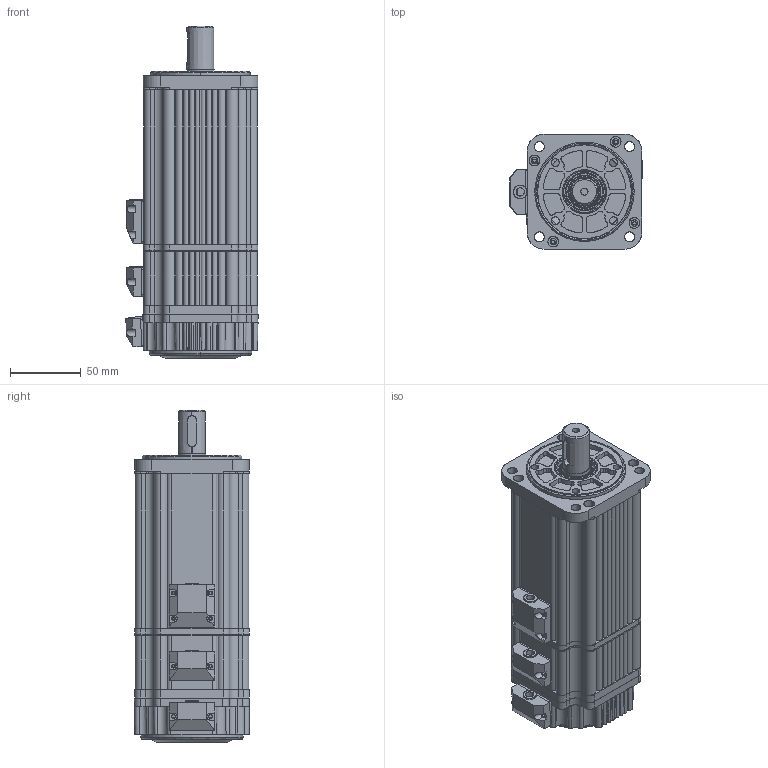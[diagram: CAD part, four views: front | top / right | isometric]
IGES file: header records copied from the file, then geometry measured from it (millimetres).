
Start section: SolidWorks IGES file using analytic representation for surfaces
Global section: file name: E:\est2012\d\17年任务\2017.01.04 外海需求电机3D图升级归档\EMJ-10APB24\EMJ-10(APB24,AFB24)with holding brake.IGS,15HSolidWorks; native system: 2015; preprocessor: SolidWorks 2015; author: hongyunting; date: 170105.153248; units: millimetre
Bounding box: 93.15 x 81.2 x 234 mm (x, y, z)
Surface area: 101484.5 mm2 (no closed solid volume)
Topology: 0 solids, 0 shells, 749 faces, 11443 edges, 11443 vertices
Faces by surface type: revolution 512, bspline 237
